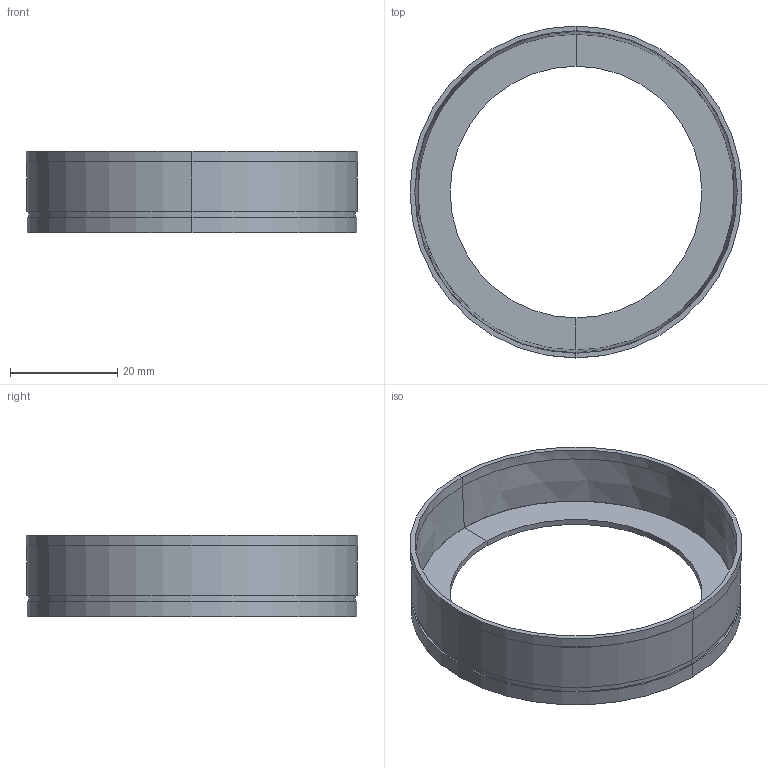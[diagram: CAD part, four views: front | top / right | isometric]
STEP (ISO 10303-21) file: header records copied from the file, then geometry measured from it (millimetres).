
FILE_DESCRIPTION(/* description */ (''),/* implementation_level */ '2;1');
FILE_NAME(/* name */ 'C:\Users\FrancoSartori\Documents\FARO\01_En Proceso\0000_2022\000_PRO\000_FOST\03_Publicación\011700098-99 (Copper-White Ring 64).stp',/* time_stamp */ '2022-04-25T08:13:34+02:00',/* author */ ('FrancoSartori'),/* organization */ (''),/* preprocessor_version */ 'ST-DEVELOPER v19',/* originating_system */ 'AutoCAD Mechanical',/* authorisation */ '');
FILE_SCHEMA (('AUTOMOTIVE_DESIGN { 1 0 10303 214 3 1 1 }'));
Length unit declared in the file: millimetre
Products named in the file (2): Product; 011700098-99 _Copper-White Ring 64_ - Lamp-713325-Export
Assembly tree (1 placements, depth 2):
  Product
    011700098-99 _Copper-White Ring 64_ - Lamp-713325-Export
Bounding box: 61.99 x 61.99 x 15.3 mm (x, y, z)
Volume: 4698.9 mm3; surface area: 8618 mm2
Topology: 2 solids, 2 shells, 34 faces, 76 edges, 42 vertices
Faces by surface type: plane 16, cylinder 10, cone 6, torus 2
Entity records: 1137 total; most frequent: CARTESIAN_POINT 353, DIRECTION 158, ORIENTED_EDGE 152, EDGE_CURVE 76, AXIS2_PLACEMENT_3D 63, VERTEX_POINT 42, FACE_OUTER_BOUND 34, EDGE_LOOP 34
